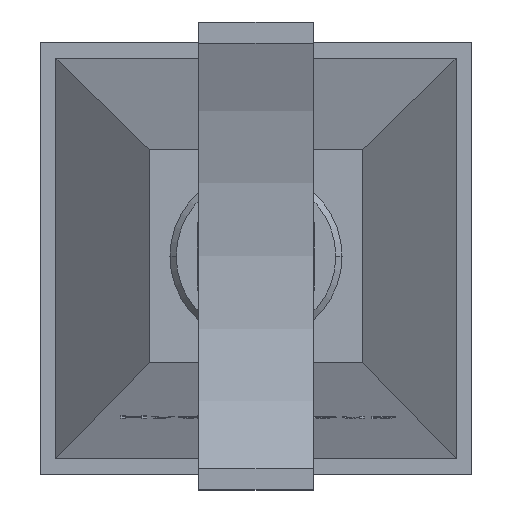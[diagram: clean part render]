
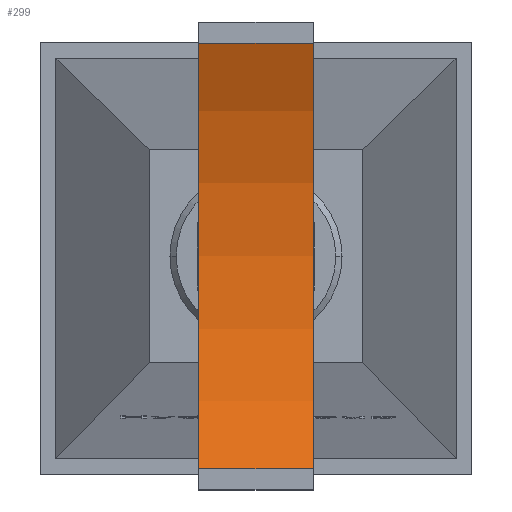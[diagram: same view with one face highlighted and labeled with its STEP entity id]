
A CAD part, top view. The second image highlights one B-rep face of the part: STEP entity #299.
In plain terms, the highlighted cylindrical face has radius 304.8 mm (diameter 609.6 mm), a partial arc.
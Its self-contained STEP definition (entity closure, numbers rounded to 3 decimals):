
#299=ADVANCED_FACE('',(#784),#785,.F.);
#784=FACE_OUTER_BOUND('',#1508,.T.);
#785=CYLINDRICAL_SURFACE('',#1509,304.8);
#1508=EDGE_LOOP('',(#2230,#2231,#2232,#2233));
#1509=AXIS2_PLACEMENT_3D('',#2234,#2235,#2236);
#2230=ORIENTED_EDGE('',*,*,#4419,.T.);
#2231=ORIENTED_EDGE('',*,*,#4420,.F.);
#2232=ORIENTED_EDGE('',*,*,#4421,.T.);
#2233=ORIENTED_EDGE('',*,*,#4416,.T.);
#2234=CARTESIAN_POINT('',(298.903,437.588,813.8));
#2235=DIRECTION('',(1.0,0.,0.));
#2236=DIRECTION('',(0.,1.0,0.));
#4416=EDGE_CURVE('',#5191,#5189,#5192,.T.);
#4419=EDGE_CURVE('',#5189,#5195,#5196,.T.);
#4420=EDGE_CURVE('',#5197,#5195,#5198,.T.);
#4421=EDGE_CURVE('',#5197,#5191,#5199,.T.);
#5189=VERTEX_POINT('',#6318);
#5191=VERTEX_POINT('',#6321);
#5192=LINE('',#6322,#6323);
#5195=VERTEX_POINT('',#6327);
#5196=CIRCLE('',#6328,304.8);
#5197=VERTEX_POINT('',#6329);
#5198=LINE('',#6330,#6331);
#5199=CIRCLE('',#6332,304.8);
#6318=CARTESIAN_POINT('',(371.903,301.635,541.));
#6321=CARTESIAN_POINT('',(298.903,301.635,541.));
#6322=CARTESIAN_POINT('',(298.903,301.635,541.));
#6323=VECTOR('',#8341,1.0);
#6327=CARTESIAN_POINT('',(371.903,573.541,541.));
#6328=AXIS2_PLACEMENT_3D('',#8343,#8344,#8345);
#6329=CARTESIAN_POINT('',(298.903,573.541,541.));
#6330=CARTESIAN_POINT('',(298.903,573.541,541.));
#6331=VECTOR('',#8346,1.0);
#6332=AXIS2_PLACEMENT_3D('',#8347,#8348,#8349);
#8341=DIRECTION('',(1.0,0.,0.));
#8343=CARTESIAN_POINT('',(371.903,437.588,813.8));
#8344=DIRECTION('',(1.0,0.,0.));
#8345=DIRECTION('',(0.,1.0,0.));
#8346=DIRECTION('',(1.0,0.,0.));
#8347=CARTESIAN_POINT('',(298.903,437.588,813.8));
#8348=DIRECTION('',(-1.0,0.,0.));
#8349=DIRECTION('',(0.,1.0,0.));
